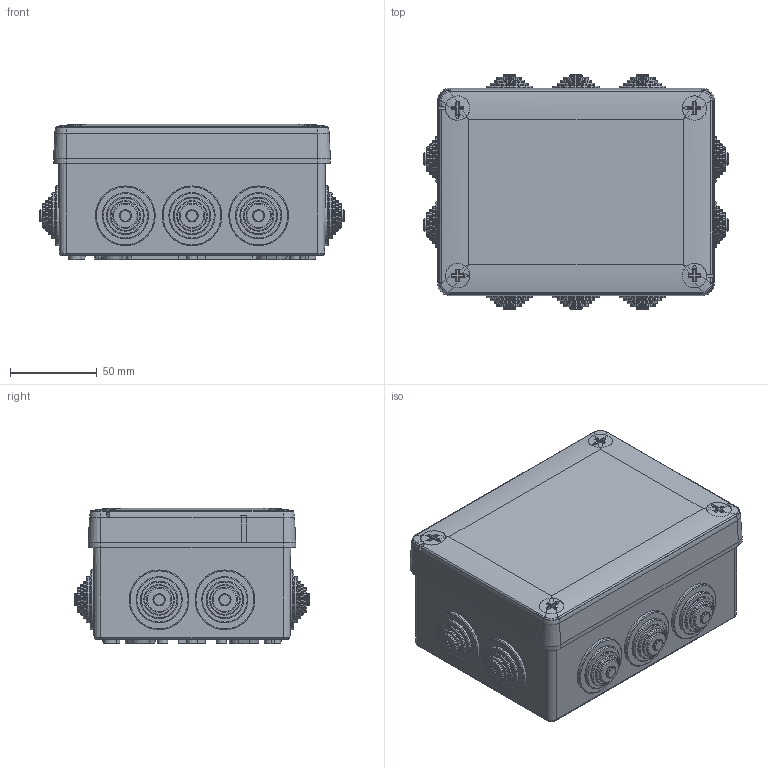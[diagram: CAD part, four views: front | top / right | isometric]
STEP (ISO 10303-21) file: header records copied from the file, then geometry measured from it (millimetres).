
FILE_DESCRIPTION(/* description */ (''),/* implementation_level */ '2;1');
FILE_NAME(/* name */ '4003404.stp',/* time_stamp */ '2019-03-01T10:45:42+01:00',/* author */ (''),/* organization */ (''),/* preprocessor_version */ 'ST-DEVELOPER v16.7',/* originating_system */ 'SIEMENS PLM Software NX 12.0',/* authorisation */ '');
FILE_SCHEMA (('AUTOMOTIVE_DESIGN { 1 0 10303 214 3 1 1 1 }'));
Products named in the file (1): bsom23CC53FBowl8
Bounding box: 175.7 x 135.7 x 78.5 mm (x, y, z)
Volume: 226046 mm3; surface area: 239736.6 mm2
Topology: 16 solids, 16 shells, 2020 faces, 4923 edges, 3131 vertices
Faces by surface type: plane 954, cylinder 490, cone 341, torus 131, bspline 78, sphere 14, revolution 12
Full cylindrical faces by diameter (mm): 3.25 x4, 4.7 x2, 5 x4, 7.1 x10, 8 x8, 14 x4, 14.2 x4, 14.6 x10, 16.2 x10, 17.7 x10, 20.2 x10, 21.7 x10, 25 x20, 26.7 x10, 28.9 x10, 29 x10, 33 x10, 34.5 x10
Entity records: 61134 total; most frequent: CARTESIAN_POINT 15491, DIRECTION 9486, ORIENTED_EDGE 8838, EDGE_CURVE 4419, AXIS2_PLACEMENT_3D 3662, VERTEX_POINT 3073, EDGE_LOOP 2714, LINE 2150
